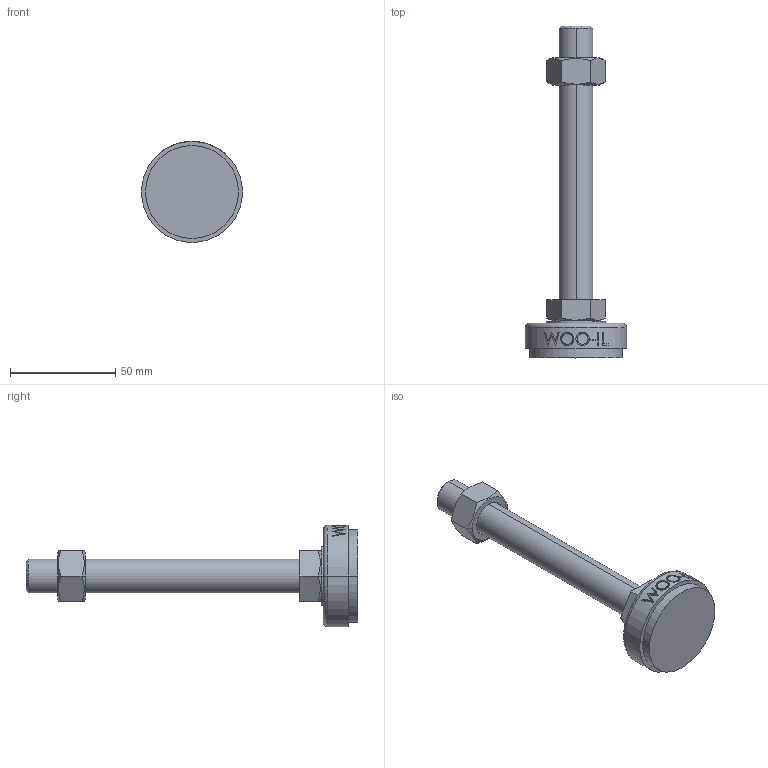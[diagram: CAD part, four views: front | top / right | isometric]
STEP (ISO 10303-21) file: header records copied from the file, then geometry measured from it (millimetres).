
FILE_DESCRIPTION (( 'STEP AP214' ), '1' );
FILE_NAME ('NS48-M16-130.step', '2021-01-11T05:43:55', ( '' ), ( '' ), 'SwSTEP 2.0', 'SolidWorks 2019', '' );
FILE_SCHEMA (( 'AUTOMOTIVE_DESIGN' ));
Length unit declared in the file: millimetre
Products named in the file (2): NS48-M16-130
Bounding box: 48 x 157.5 x 48 mm (x, y, z)
Volume: 63874.6 mm3; surface area: 16530.5 mm2
Topology: 3 solids, 3 shells, 96 faces, 223 edges, 144 vertices
Faces by surface type: plane 48, cylinder 18, bspline 16, cone 12, torus 2
Entity records: 4250 total; most frequent: CARTESIAN_POINT 2125, ORIENTED_EDGE 446, DIRECTION 381, EDGE_CURVE 223, VERTEX_POINT 144, AXIS2_PLACEMENT_3D 142, EDGE_LOOP 109, LINE 97
